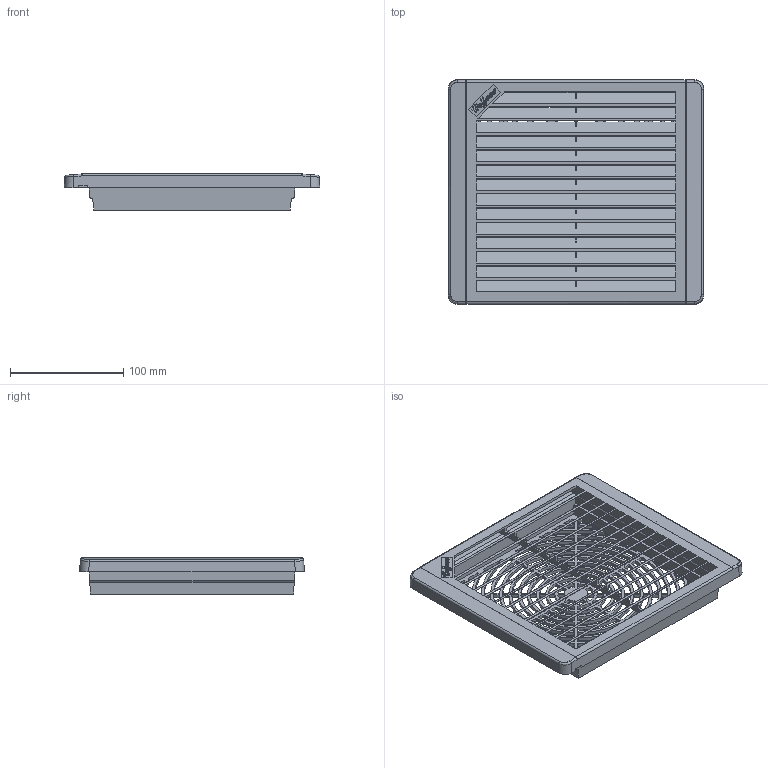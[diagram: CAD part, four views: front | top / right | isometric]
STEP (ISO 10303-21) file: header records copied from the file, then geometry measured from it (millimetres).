
FILE_DESCRIPTION(( 'STEP AP214 file generated by I-DEAS Master Series'),'2;1');
FILE_NAME('D:\a00150\t-ep6.stp','2002-06-05T10:35:32',('A00150'),( 'unspecified'),'I-DEAS Master Series 7m2 : Design', 'I-DEAS Master Series 7m2 : Design','unspecified');
FILE_SCHEMA(('AUTOMOTIVE_DESIGN_CC2 { 1 2 10303 214 -1 1 5 3 }'));
Length unit declared in the file: inch
Products named in the file (3): 6_inch_pkg_bbs; 87555311; 87559980
Assembly tree (2 placements, depth 2):
  6_inch_pkg_bbs
    87555311
    87559980
Bounding box: 225.17 x 197.99 x 31.88 mm (x, y, z)
Volume: 193102.2 mm3; surface area: 228571.2 mm2
Topology: 2 solids, 2 shells, 1328 faces, 3844 edges, 2538 vertices
Faces by surface type: bspline 1328
Entity records: 50940 total; most frequent: CARTESIAN_POINT 28918, ORIENTED_EDGE 7680, EDGE_CURVE 3840, VERTEX_POINT 2537, EDGE_LOOP 1617, FACE_OUTER_BOUND 1328, ADVANCED_FACE 1328, B_SPLINE_CURVE_WITH_KNOTS 1294
